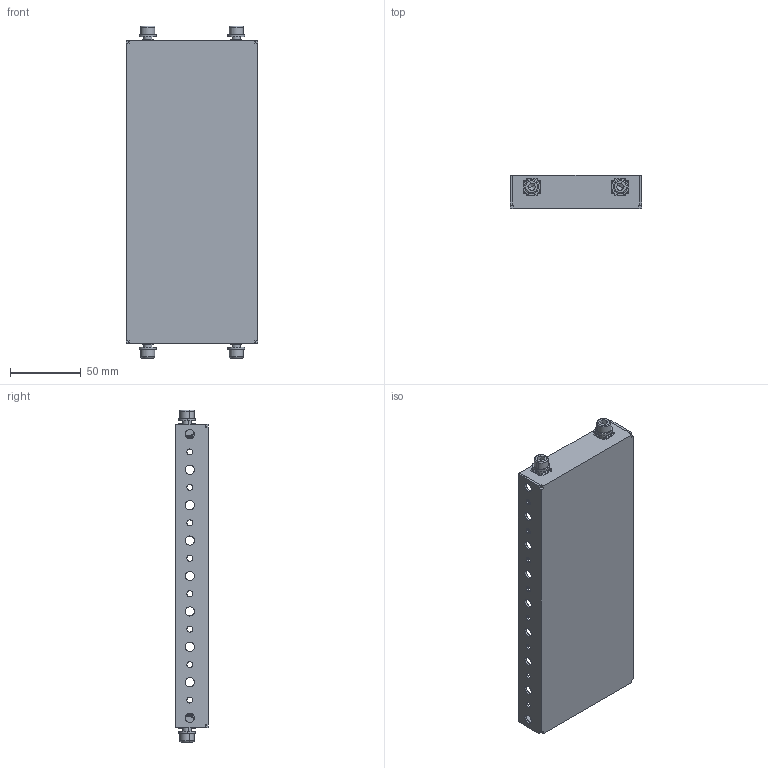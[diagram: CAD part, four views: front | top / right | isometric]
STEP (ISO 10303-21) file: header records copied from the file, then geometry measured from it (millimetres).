
FILE_DESCRIPTION(('Open CASCADE Model'),'2;1');
FILE_NAME('Open CASCADE Shape Model','2025-02-27T10:31:40',('Author'),( 'Open CASCADE'),'Open CASCADE STEP processor 7.8','Open CASCADE 7.8' ,'Unknown');
FILE_SCHEMA(('AUTOMOTIVE_DESIGN { 1 0 10303 214 1 1 1 1 }'));
Length unit declared in the file: millimetre
Products named in the file (5): Compound1; Solid1; Solid2; Solid3; Solid4
Assembly tree (13 placements, depth 2):
  Compound1
    Solid1
    Solid2  x4
    Solid3  x4
    Solid4  x4
Bounding box: 92.5 x 23 x 234.2 mm (x, y, z)
Volume: 53313 mm3; surface area: 72992.1 mm2
Topology: 13 solids, 13 shells, 718 faces, 2000 edges, 1300 vertices
Faces by surface type: plane 346, cylinder 324, cone 32, torus 16
Entity records: 9684 total; most frequent: CARTESIAN_POINT 1872, DIRECTION 1634, ORIENTED_EDGE 1608, EDGE_CURVE 804, AXIS2_PLACEMENT_3D 585, VERTEX_POINT 529, LINE 464, VECTOR 464
